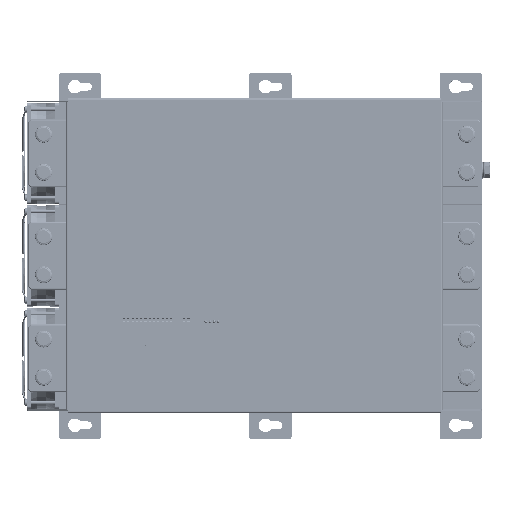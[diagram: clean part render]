
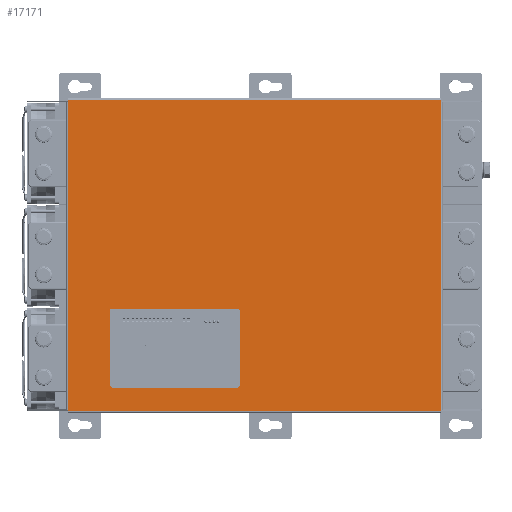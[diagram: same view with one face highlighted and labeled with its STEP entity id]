
A CAD part, top view. The second image highlights one B-rep face of the part: STEP entity #17171.
In plain terms, the highlighted planar face has unit normal (0, 0, 1).
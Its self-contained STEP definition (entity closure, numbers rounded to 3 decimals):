
#17171=ADVANCED_FACE('',(#61035,#61037),#61039,.F.);
#61035=FACE_BOUND('',#61036,.T.);
#61036=EDGE_LOOP('',(#98401,#98402,#98403,#98404,#98405,#98406,#98407,#98408));
#61037=FACE_BOUND('',#61038,.T.);
#61038=EDGE_LOOP('',(#98409,#98410,#98411,#98412,#98413,#98414,#98415,#98416));
#61039=PLANE('',#61040);
#61040=AXIS2_PLACEMENT_3D('',#61041,#61042,#61043);
#61041=CARTESIAN_POINT('',(-19.,-121.,192.5));
#61042=DIRECTION('',(0.,0.,-1.));
#61043=DIRECTION('',(0.,1.,0.));
#98401=ORIENTED_EDGE('',*,*,#120380,.T.);
#98402=ORIENTED_EDGE('',*,*,#120381,.T.);
#98403=ORIENTED_EDGE('',*,*,#120382,.T.);
#98404=ORIENTED_EDGE('',*,*,#120383,.T.);
#98405=ORIENTED_EDGE('',*,*,#120384,.T.);
#98406=ORIENTED_EDGE('',*,*,#120385,.T.);
#98407=ORIENTED_EDGE('',*,*,#120386,.T.);
#98408=ORIENTED_EDGE('',*,*,#120387,.T.);
#98409=ORIENTED_EDGE('',*,*,#116193,.T.);
#98410=ORIENTED_EDGE('',*,*,#116208,.T.);
#98411=ORIENTED_EDGE('',*,*,#116206,.T.);
#98412=ORIENTED_EDGE('',*,*,#116204,.T.);
#98413=ORIENTED_EDGE('',*,*,#116202,.T.);
#98414=ORIENTED_EDGE('',*,*,#116200,.T.);
#98415=ORIENTED_EDGE('',*,*,#116198,.T.);
#98416=ORIENTED_EDGE('',*,*,#116196,.T.);
#116193=EDGE_CURVE('',#139210,#139211,#139212,.F.);
#116196=EDGE_CURVE('',#139215,#139210,#139216,.T.);
#116198=EDGE_CURVE('',#139218,#139215,#139219,.T.);
#116200=EDGE_CURVE('',#139221,#139218,#139222,.T.);
#116202=EDGE_CURVE('',#139224,#139221,#139225,.T.);
#116204=EDGE_CURVE('',#139227,#139224,#139228,.T.);
#116206=EDGE_CURVE('',#139230,#139227,#139231,.T.);
#116208=EDGE_CURVE('',#139211,#139230,#139233,.T.);
#120380=EDGE_CURVE('',#145475,#145476,#145477,.T.);
#120381=EDGE_CURVE('',#145476,#145478,#145479,.T.);
#120382=EDGE_CURVE('',#145478,#145480,#145481,.T.);
#120383=EDGE_CURVE('',#145480,#145482,#145483,.T.);
#120384=EDGE_CURVE('',#145482,#145484,#145485,.T.);
#120385=EDGE_CURVE('',#145484,#145486,#145487,.T.);
#120386=EDGE_CURVE('',#145486,#145488,#145489,.T.);
#120387=EDGE_CURVE('',#145488,#145475,#145490,.T.);
#139210=VERTEX_POINT('',#207588);
#139211=VERTEX_POINT('',#207589);
#139212=CIRCLE('',#207590,3.);
#139215=VERTEX_POINT('',#207600);
#139216=LINE('',#207601,#207602);
#139218=VERTEX_POINT('',#207607);
#139219=CIRCLE('',#207608,1.5);
#139221=VERTEX_POINT('',#207615);
#139222=LINE('',#207616,#207617);
#139224=VERTEX_POINT('',#207622);
#139225=CIRCLE('',#207623,1.5);
#139227=VERTEX_POINT('',#207630);
#139228=LINE('',#207631,#207632);
#139230=VERTEX_POINT('',#207637);
#139231=CIRCLE('',#207638,3.);
#139233=LINE('',#207645,#207646);
#145475=VERTEX_POINT('',#223224);
#145476=VERTEX_POINT('',#223225);
#145477=LINE('',#223226,#223227);
#145478=VERTEX_POINT('',#223229);
#145479=LINE('',#223230,#223231);
#145480=VERTEX_POINT('',#223233);
#145481=LINE('',#223234,#223235);
#145482=VERTEX_POINT('',#223237);
#145483=LINE('',#223238,#223239);
#145484=VERTEX_POINT('',#223241);
#145485=LINE('',#223242,#223243);
#145486=VERTEX_POINT('',#223245);
#145487=LINE('',#223246,#223247);
#145488=VERTEX_POINT('',#223249);
#145489=LINE('',#223250,#223251);
#145490=LINE('',#223253,#223254);
#207588=CARTESIAN_POINT('',(-36.3,-274.1,192.5));
#207589=CARTESIAN_POINT('',(-39.3,-277.1,192.5));
#207590=AXIS2_PLACEMENT_3D('',#207591,#207592,#207593);
#207591=CARTESIAN_POINT('',(-39.3,-274.1,192.5));
#207592=DIRECTION('',(0.,0.,1.));
#207593=DIRECTION('',(0.,-1.,0.));
#207600=CARTESIAN_POINT('',(-36.3,-185.6,192.5));
#207601=CARTESIAN_POINT('',(-36.3,-185.6,192.5));
#207602=VECTOR('',#207603,1.);
#207603=DIRECTION('',(0.,-1.,0.));
#207607=CARTESIAN_POINT('',(-37.8,-184.1,192.5));
#207608=AXIS2_PLACEMENT_3D('',#207609,#207610,#207611);
#207609=CARTESIAN_POINT('',(-37.8,-185.6,192.5));
#207610=DIRECTION('',(0.,0.,-1.));
#207611=DIRECTION('',(0.,1.,0.));
#207615=CARTESIAN_POINT('',(-187.8,-184.1,192.5));
#207616=CARTESIAN_POINT('',(-187.8,-184.1,192.5));
#207617=VECTOR('',#207618,1.);
#207618=DIRECTION('',(1.,0.,0.));
#207622=CARTESIAN_POINT('',(-189.3,-185.6,192.5));
#207623=AXIS2_PLACEMENT_3D('',#207624,#207625,#207626);
#207624=CARTESIAN_POINT('',(-187.8,-185.6,192.5));
#207625=DIRECTION('',(0.,0.,-1.));
#207626=DIRECTION('',(-1.,0.,0.));
#207630=CARTESIAN_POINT('',(-189.3,-274.1,192.5));
#207631=CARTESIAN_POINT('',(-189.3,-274.1,192.5));
#207632=VECTOR('',#207633,1.);
#207633=DIRECTION('',(0.,1.,0.));
#207637=CARTESIAN_POINT('',(-186.3,-277.1,192.5));
#207638=AXIS2_PLACEMENT_3D('',#207639,#207640,#207641);
#207639=CARTESIAN_POINT('',(-186.3,-274.1,192.5));
#207640=DIRECTION('',(0.,0.,-1.));
#207641=DIRECTION('',(0.,-1.,0.));
#207645=CARTESIAN_POINT('',(-39.3,-277.1,192.5));
#207646=VECTOR('',#207647,1.);
#207647=DIRECTION('',(-1.,0.,0.));
#223224=CARTESIAN_POINT('',(201.5,61.,192.5));
#223225=CARTESIAN_POINT('',(201.5,63.,192.5));
#223226=CARTESIAN_POINT('',(201.5,61.,192.5));
#223227=VECTOR('',#223228,1.);
#223228=DIRECTION('',(0.,1.,0.));
#223229=CARTESIAN_POINT('',(-239.5,63.,192.5));
#223230=CARTESIAN_POINT('',(201.5,63.,192.5));
#223231=VECTOR('',#223232,1.);
#223232=DIRECTION('',(-1.,0.,0.));
#223233=CARTESIAN_POINT('',(-239.5,61.,192.5));
#223234=CARTESIAN_POINT('',(-239.5,63.,192.5));
#223235=VECTOR('',#223236,1.);
#223236=DIRECTION('',(0.,-1.,0.));
#223237=CARTESIAN_POINT('',(-239.5,-303.,192.5));
#223238=CARTESIAN_POINT('',(-239.5,61.,192.5));
#223239=VECTOR('',#223240,1.);
#223240=DIRECTION('',(0.,-1.,0.));
#223241=CARTESIAN_POINT('',(-239.5,-305.,192.5));
#223242=CARTESIAN_POINT('',(-239.5,-303.,192.5));
#223243=VECTOR('',#223244,1.);
#223244=DIRECTION('',(0.,-1.,0.));
#223245=CARTESIAN_POINT('',(201.5,-305.,192.5));
#223246=CARTESIAN_POINT('',(-239.5,-305.,192.5));
#223247=VECTOR('',#223248,1.);
#223248=DIRECTION('',(1.,0.,0.));
#223249=CARTESIAN_POINT('',(201.5,-303.,192.5));
#223250=CARTESIAN_POINT('',(201.5,-305.,192.5));
#223251=VECTOR('',#223252,1.);
#223252=DIRECTION('',(0.,1.,0.));
#223253=CARTESIAN_POINT('',(201.5,-303.,192.5));
#223254=VECTOR('',#223255,1.);
#223255=DIRECTION('',(0.,1.,0.));
